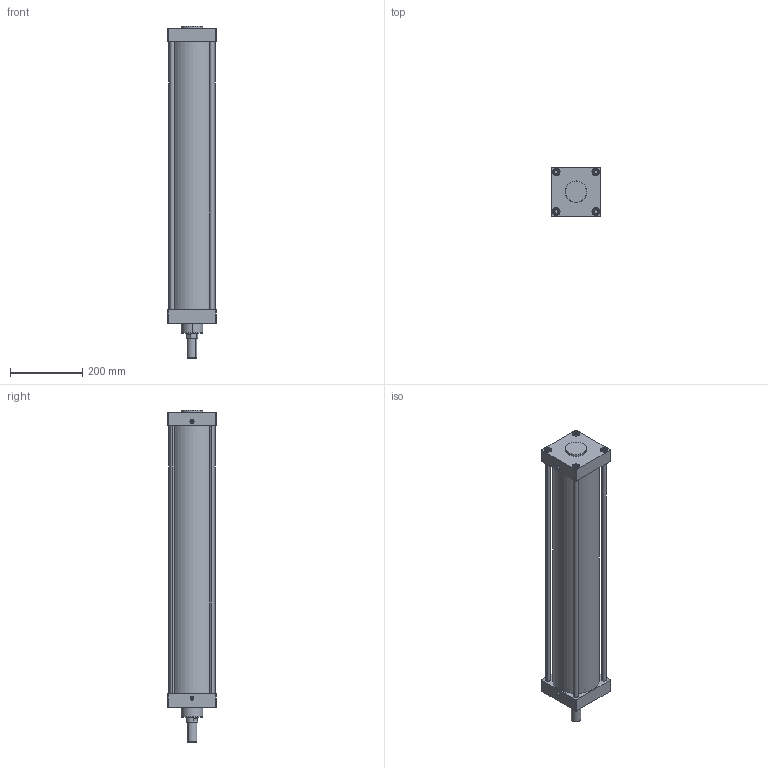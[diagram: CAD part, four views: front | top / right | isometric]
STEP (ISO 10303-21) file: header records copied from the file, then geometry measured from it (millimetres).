
FILE_DESCRIPTION (( 'STEP AP203' ), '1' );
FILE_NAME ('SC-CR-S-125X700-CYLINDER.STEP', '2016-10-31T15:55:33', ( 'user' ), ( '' ), 'SwSTEP 2.0', 'SolidWorks 2013', '' );
FILE_SCHEMA (( 'CONFIG_CONTROL_DESIGN' ));
Length unit declared in the file: millimetre
Products named in the file (8): SC-CR-S 125 ARKA KAPAK ; SC-CR-S 125x700 Piston Mili; SC-CR-S 125 烰 KAPAK ; SC-CR-S 125x700 SAPLAMA; SC-CR-S 125x700 BORU; SC-CR-S-125X700-CYLINDER; SC-CR-S 125 ORTA PÝSTON ; SC-CR-S 125 CIVATA
Assembly tree (17 placements, depth 2):
  SC-CR-S-125X700-CYLINDER
    SC-CR-S 125 ARKA KAPAK 
    SC-CR-S 125 烰 KAPAK 
    SC-CR-S 125 ORTA PÝSTON 
    SC-CR-S 125 CIVATA  x8
    SC-CR-S 125x700 SAPLAMA  x4
    SC-CR-S 125x700 Piston Mili
    SC-CR-S 125x700 BORU
Bounding box: 136 x 136 x 921.7 mm (x, y, z)
Volume: 3285785.5 mm3; surface area: 1050781.3 mm2
Topology: 17 solids, 19 shells, 439 faces, 908 edges, 541 vertices
Faces by surface type: cylinder 156, plane 134, cone 133, torus 16
Entity records: 8689 total; most frequent: CARTESIAN_POINT 1716, DIRECTION 1372, ORIENTED_EDGE 1100, AXIS2_PLACEMENT_3D 575, EDGE_CURVE 551, VERTEX_POINT 339, EDGE_LOOP 315, CIRCLE 301
